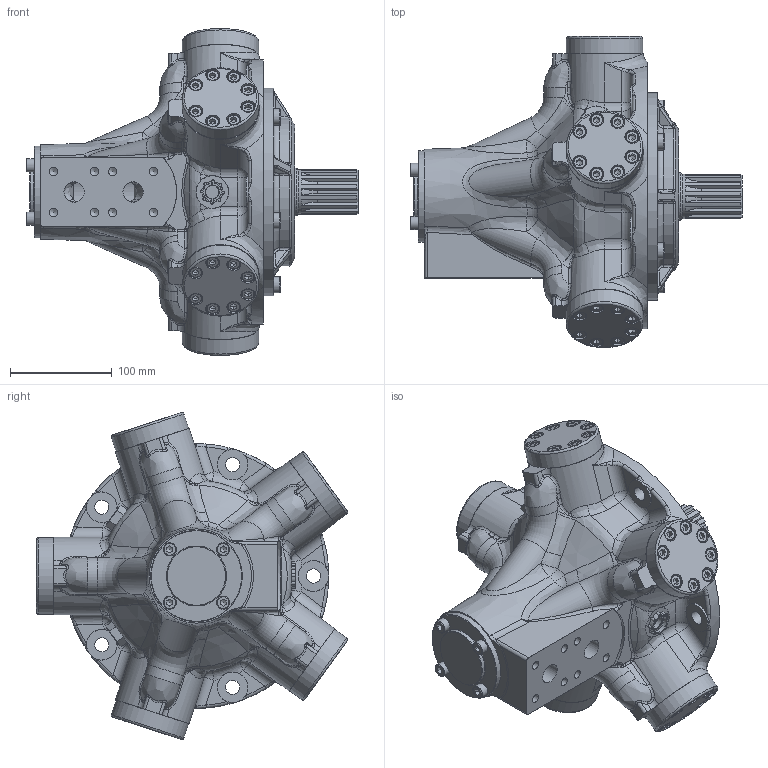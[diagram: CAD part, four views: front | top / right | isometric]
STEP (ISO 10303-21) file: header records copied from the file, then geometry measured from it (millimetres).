
FILE_DESCRIPTION(/* description */ (''),/* implementation_level */ '2;1');
FILE_NAME(/* name */ 'K:\3D MODELS\STAFFA MODEL LIBRARY\HMB010 S 11.stp',/* time_stamp */ '2021-03-10T09:20:33+00:00',/* author */ ('gharvey'),/* organization */ (''),/* preprocessor_version */ 'ST-DEVELOPER v18.1',/* originating_system */ 'Autodesk Inventor 2021',/* authorisation */ '');
FILE_SCHEMA (('AUTOMOTIVE_DESIGN { 1 0 10303 214 3 1 1 }'));
Products named in the file (12): HMB010 S 11; 512552; 687508 B010 FRONT COVER; 687509 with screws; 687509; ANSI B18.3.1M - M8x1.25 x 20; 687514 - VALVE END CAP B010; ANSI B18.3.1M - M10x1.5 x 20; ISO 4762 - M8 x 12; FRONTEND 26624 B010 S SHAFT; 67208 - 3_8in BSP DRAIN PLUG; 62567 - 3_in BSP PLASTIC PLUG
Assembly tree (30 placements, depth 3):
  HMB010 S 11
    512552
    687508 B010 FRONT COVER
    687509 with screws  x5
      687509
      ANSI B18.3.1M - M8x1.25 x 20
    687514 - VALVE END CAP B010
    ANSI B18.3.1M - M10x1.5 x 20  x5
    ISO 4762 - M8 x 12  x4
    FRONTEND 26624 B010 S SHAFT
    67208 - 3_8in BSP DRAIN PLUG  x2
    62567 - 3_in BSP PLASTIC PLUG
Bounding box: 326.25 x 305.71 x 321.23 mm (x, y, z)
Volume: 4541613.3 mm3; surface area: 706451.3 mm2
Topology: 61 solids, 61 shells, 2311 faces, 5625 edges, 3508 vertices
Faces by surface type: plane 779, cylinder 609, bspline 381, torus 280, cone 241, sphere 21
Full cylindrical faces by diameter (mm): 6.647 x45, 8 x44, 8.376 x10, 9 x44, 10 x5, 11 x5, 13 x44, 13.614 x1, 14 x45, 14.656 x2, 14.95 x3, 16 x5, 16.662 x3, 17.5 x5, 17.78 x1, 20 x2, 30 x10, 32 x3, 35 x5, 40 x11, 40.008 x5, 43.65 x1, 47.98 x1, 51.025 x1, 52 x1, 55.01 x1, 55.95 x2, 56.006 x1, 58.25 x1, 70.015 x1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
Entity records: 60866 total; most frequent: CARTESIAN_POINT 28039, ORIENTED_EDGE 7046, DIRECTION 6200, EDGE_CURVE 3523, AXIS2_PLACEMENT_3D 2572, VERTEX_POINT 2175, EDGE_LOOP 1652, FACE_OUTER_BOUND 1469
